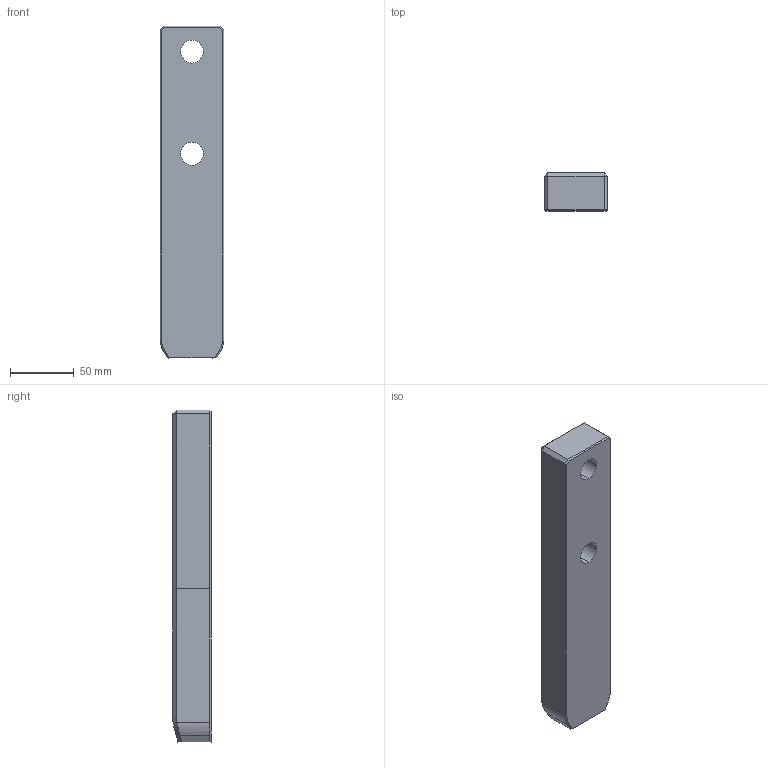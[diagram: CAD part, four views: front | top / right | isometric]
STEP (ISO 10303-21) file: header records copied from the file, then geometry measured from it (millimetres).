
FILE_DESCRIPTION((''),'2;1');
FILE_NAME('','2010-09-08T12:49:00+09:00',('misumi'),(''),'M/STEP i/f 1R2-14','CADmeister v5.1','');
FILE_SCHEMA(('AUTOMOTIVE_DESIGN'));
Length unit declared in the file: millimetre
Products named in the file (1): OGP50-260
Bounding box: 50 x 30 x 260 mm (x, y, z)
Volume: 365025 mm3; surface area: 46044.2 mm2
Topology: 1 solids, 1 shells, 49 faces, 114 edges, 68 vertices
Faces by surface type: plane 32, cylinder 9, cone 4, bspline 4
Entity records: 2151 total; most frequent: CARTESIAN_POINT 494, ORIENTED_EDGE 224, DIRECTION 216, COLOUR_RGB 121, CURVE_STYLE 118, PRESENTATION_STYLE_ASSIGNMENT 117, OVER_RIDING_STYLED_ITEM 114, EDGE_CURVE 112
